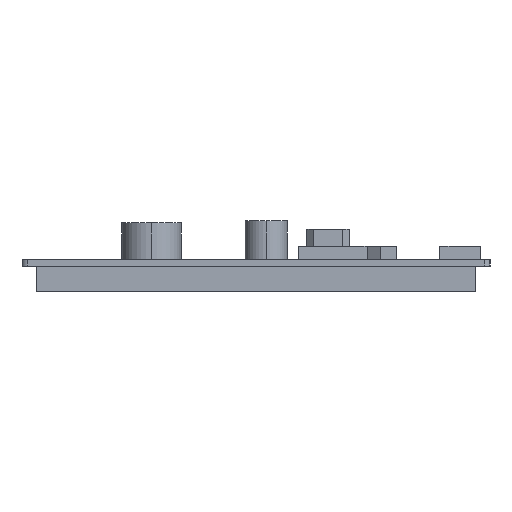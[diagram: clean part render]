
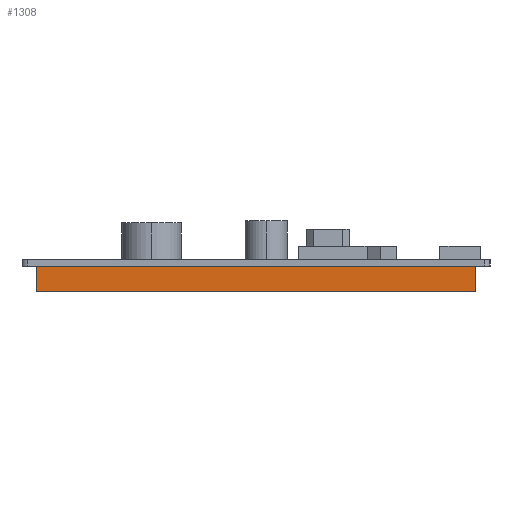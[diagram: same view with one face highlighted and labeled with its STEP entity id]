
A CAD part, left-side view. The second image highlights one B-rep face of the part: STEP entity #1308.
In plain terms, the highlighted planar face has unit normal (-1, 0, 0).
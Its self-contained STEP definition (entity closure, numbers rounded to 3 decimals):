
#342=DIRECTION('',(0.,-1.,0.));
#343=VECTOR('',#342,65.9);
#344=CARTESIAN_POINT('',(1094.079,514.636,-1.));
#345=LINE('',#344,#343);
#346=DIRECTION('',(0.,0.,1.));
#347=VECTOR('',#346,3.75);
#348=CARTESIAN_POINT('',(1094.079,514.636,-4.75));
#349=LINE('',#348,#347);
#354=DIRECTION('',(0.,0.,1.));
#355=VECTOR('',#354,3.75);
#356=CARTESIAN_POINT('',(1094.079,448.736,-4.75));
#357=LINE('',#356,#355);
#382=DIRECTION('',(0.,-1.,0.));
#383=VECTOR('',#382,65.9);
#384=CARTESIAN_POINT('',(1094.079,514.636,-4.75));
#385=LINE('',#384,#383);
#826=CARTESIAN_POINT('',(1094.079,514.636,-1.));
#827=CARTESIAN_POINT('',(1094.079,448.736,-1.));
#828=VERTEX_POINT('',#826);
#829=VERTEX_POINT('',#827);
#850=CARTESIAN_POINT('',(1094.079,448.736,-4.75));
#851=VERTEX_POINT('',#850);
#852=CARTESIAN_POINT('',(1094.079,514.636,-4.75));
#853=VERTEX_POINT('',#852);
#1294=CARTESIAN_POINT('',(1094.079,448.736,-1.));
#1295=DIRECTION('',(-1.,0.,0.));
#1296=DIRECTION('',(0.,1.,0.));
#1297=AXIS2_PLACEMENT_3D('',#1294,#1295,#1296);
#1298=PLANE('',#1297);
#1299=ORIENTED_EDGE('',*,*,#1245,.T.);
#1301=ORIENTED_EDGE('',*,*,#1300,.F.);
#1303=ORIENTED_EDGE('',*,*,#1302,.F.);
#1305=ORIENTED_EDGE('',*,*,#1304,.T.);
#1306=EDGE_LOOP('',(#1299,#1301,#1303,#1305));
#1307=FACE_OUTER_BOUND('',#1306,.F.);
#1245=EDGE_CURVE('',#828,#829,#345,.T.);
#1300=EDGE_CURVE('',#851,#829,#357,.T.);
#1302=EDGE_CURVE('',#853,#851,#385,.T.);
#1304=EDGE_CURVE('',#853,#828,#349,.T.);
#1308=ADVANCED_FACE('',(#1307),#1298,.T.);
